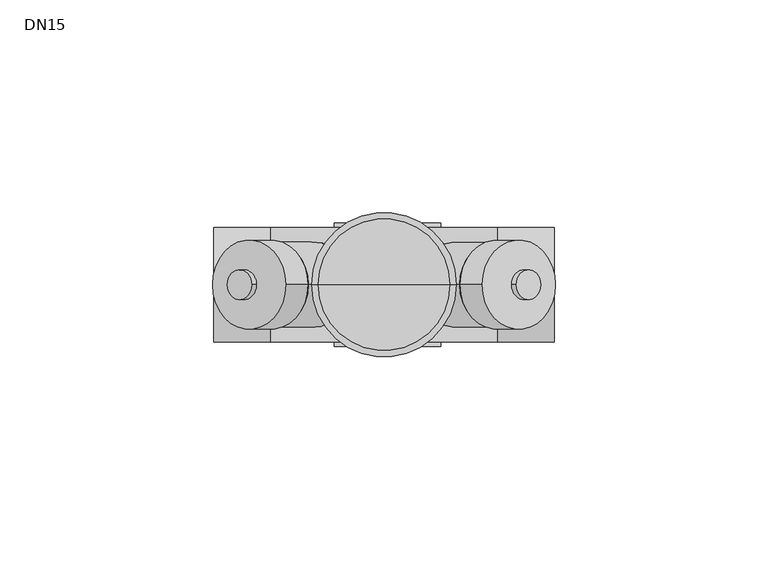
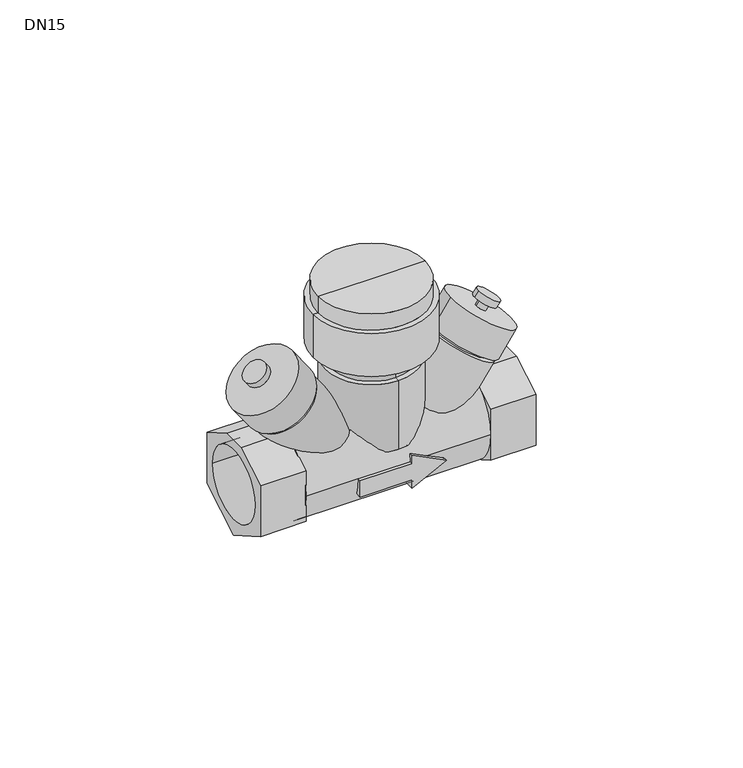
"""IFC4 building model written with IfcOpenShell, lengths in millimetres: valve geometry, 400_56_KOMF_HTZ : DN15."""

from ifc_helpers import new_model, si_unit, point, frame, origin, origin_2d, place, context, project, spatial, polyline, circle_curve, ellipse_curve, trimmed, segment, composite_curve, outline, extrude, source, transform, mapped, element, save
from ifc_brep_helpers import plane_surface, cylinder_surface, revolved_surface, advanced_brep


def dn15_3e07b9b7(model_context):
    return source(origin(), model_context, "Body", "SolidModel", [
        advanced_brep(
        [(34.1614142, 0.0, 15.2961177), (17.7784319, 0.0, 26.7676054), (19.4167774, 0.0, 25.6204236), (32.5230687, 0.0, 16.4432996), (22.8246716, 0.0, -0.8944285), (6.4416893, 0.0, 10.5770591), (33.0966531, 0.0, 17.2624631), (19.9903618, 0.0, 26.4395871), (40.3067448, 0.0, 23.2008828), (23.1046544, 0.0, 35.2459162), (30.4768006, 0.0, 30.0838838), (32.9345986, 0.0, 28.3629152), (35.1445527, 0.0, 15.8285084), (17.9424623, 0.0, 27.8735418), (34.0817629, 0.0, 30.0012356), (31.623965, 0.0, 31.7222043), (36.867019, 0.0, 30.4924917), (31.132981, 0.0, 34.5075083), (35.719883, 0.0, 28.8542116), (29.985845, 0.0, 32.8692283)],
        [
            (0, 1, circle_curve(frame((25.969923, 0.0, 21.0318616), z_axis=(0.5735764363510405, 0.0, 0.8191520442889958), x_axis=(-0.8191520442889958, 0.0, 0.5735764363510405)), 9.9999642)),
            (1, 0, circle_curve(frame((25.969923, 0.0, 21.0318616), z_axis=(0.5735764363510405, 0.0, 0.8191520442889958), x_axis=(-0.8191520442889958, 0.0, 0.5735764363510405)), 9.9999642)),
            (2, 3, circle_curve(frame((25.969923, 0.0, 21.0318616), z_axis=(-0.5735764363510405, 0.0, -0.8191520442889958), x_axis=(-0.8191520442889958, 0.0, 0.5735764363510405)), 7.9999137)),
            (3, 2, circle_curve(frame((25.969923, 0.0, 21.0318616), z_axis=(-0.5735764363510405, 0.0, -0.8191520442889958), x_axis=(-0.8191520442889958, 0.0, 0.5735764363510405)), 7.9999137)),
            (4, 5, circle_curve(frame((14.6331805, 0.0, 4.8413153), z_axis=(-0.5735764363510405, 0.0, -0.8191520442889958), x_axis=(-0.8191520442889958, 0.0, 0.5735764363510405)), 9.9999642)),
            (5, 4, circle_curve(frame((14.6331805, 0.0, 4.8413153), z_axis=(-0.5735764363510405, 0.0, -0.8191520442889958), x_axis=(-0.8191520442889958, 0.0, 0.5735764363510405)), 9.9999642)),
            (1, 5),
            (4, 0),
            (6, 7, circle_curve(frame((26.5435075, 0.0, 21.8510251), z_axis=(-0.5735764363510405, 0.0, -0.8191520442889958), x_axis=(-0.8191520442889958, 0.0, 0.5735764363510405)), 7.9999137)),
            (7, 2),
            (3, 6),
            (7, 6, circle_curve(frame((26.5435075, 0.0, 21.8510251), z_axis=(-0.5735764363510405, 0.0, -0.8191520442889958), x_axis=(-0.8191520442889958, 0.0, 0.5735764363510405)), 7.9999137)),
            (8, 9, circle_curve(frame((31.7056996, 0.0, 29.2233995), z_axis=(0.5735764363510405, 0.0, 0.8191520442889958), x_axis=(-0.8191520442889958, 0.0, 0.5735764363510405)), 10.4999374)),
            (9, 8, circle_curve(frame((31.7056996, 0.0, 29.2233995), z_axis=(0.5735764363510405, 0.0, 0.8191520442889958), x_axis=(-0.8191520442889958, 0.0, 0.5735764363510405)), 10.4999374)),
            (10, 11, circle_curve(frame((31.7056996, 0.0, 29.2233995), z_axis=(-0.5735764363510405, 0.0, -0.8191520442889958), x_axis=(-0.8191520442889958, 0.0, 0.5735764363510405)), 1.5002086)),
            (11, 10, circle_curve(frame((31.7056996, 0.0, 29.2233995), z_axis=(-0.5735764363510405, 0.0, -0.8191520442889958), x_axis=(-0.8191520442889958, 0.0, 0.5735764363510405)), 1.5002086)),
            (12, 13, circle_curve(frame((26.5435075, 0.0, 21.8510251), z_axis=(-0.5735764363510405, 0.0, -0.8191520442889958), x_axis=(-0.8191520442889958, 0.0, 0.5735764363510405)), 10.4999374)),
            (13, 12, circle_curve(frame((26.5435075, 0.0, 21.8510251), z_axis=(-0.5735764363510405, 0.0, -0.8191520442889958), x_axis=(-0.8191520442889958, 0.0, 0.5735764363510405)), 10.4999374)),
            (9, 13),
            (12, 8),
            (14, 15, circle_curve(frame((32.852864, 0.0, 30.8617199), z_axis=(-0.5735764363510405, 0.0, -0.8191520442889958), x_axis=(-0.8191520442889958, 0.0, 0.5735764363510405)), 1.5002086)),
            (15, 10),
            (11, 14),
            (15, 14, circle_curve(frame((32.852864, 0.0, 30.8617199), z_axis=(-0.5735764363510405, 0.0, -0.8191520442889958), x_axis=(-0.8191520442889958, 0.0, 0.5735764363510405)), 1.5002086)),
            (16, 17, circle_curve(frame((34.0, 0.0, 32.5), z_axis=(0.5735764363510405, 0.0, 0.8191520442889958), x_axis=(-0.8191520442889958, 0.0, 0.5735764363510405)), 3.4999839)),
            (17, 16, circle_curve(frame((34.0, 0.0, 32.5), z_axis=(0.5735764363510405, 0.0, 0.8191520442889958), x_axis=(-0.8191520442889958, 0.0, 0.5735764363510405)), 3.4999839)),
            (18, 19, circle_curve(frame((32.852864, 0.0, 30.8617199), z_axis=(-0.5735764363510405, 0.0, -0.8191520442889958), x_axis=(-0.8191520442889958, 0.0, 0.5735764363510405)), 3.4999839)),
            (19, 18, circle_curve(frame((32.852864, 0.0, 30.8617199), z_axis=(-0.5735764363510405, 0.0, -0.8191520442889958), x_axis=(-0.8191520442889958, 0.0, 0.5735764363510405)), 3.4999839)),
            (17, 19),
            (18, 16),
        ],
        [
            plane_surface(frame((17.7784319, 0.0, 26.7676054), z_axis=(0.5735764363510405, 0.0, 0.8191520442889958), x_axis=(0.0, 1.0, 0.0))),
            plane_surface(frame((6.4416893, 0.0, 10.5770591), z_axis=(-0.5735764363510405, 0.0, -0.8191520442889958), x_axis=(0.0, -1.0, 0.0))),
            cylinder_surface(frame((14.6331805, 0.0, 4.8413153), z_axis=(0.5735764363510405, 0.0, 0.8191520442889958), x_axis=(-0.8191520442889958, 0.0, 0.5735764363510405)), 9.9999642),
            cylinder_surface(frame((17.939734, 0.0, 9.5635631), z_axis=(0.5735764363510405, 0.0, 0.8191520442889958), x_axis=(-0.8191520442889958, 0.0, 0.5735764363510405)), 7.9999137),
            plane_surface(frame((23.1046544, 0.0, 35.2459162), z_axis=(0.5735764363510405, 0.0, 0.8191520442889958), x_axis=(0.0, 1.0, 0.0))),
            plane_surface(frame((17.9424623, 0.0, 27.8735418), z_axis=(-0.5735764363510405, 0.0, -0.8191520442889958), x_axis=(0.0, -1.0, 0.0))),
            cylinder_surface(frame((26.5435075, 0.0, 21.8510251), z_axis=(0.5735764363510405, 0.0, 0.8191520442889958), x_axis=(-0.8191520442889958, 0.0, 0.5735764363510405)), 10.4999374),
            cylinder_surface(frame((31.7056996, 0.0, 29.2233995), z_axis=(0.5735764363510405, 0.0, 0.8191520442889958), x_axis=(-0.8191520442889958, 0.0, 0.5735764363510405)), 1.5002086),
            plane_surface(frame((31.132981, 0.0, 34.5075083), z_axis=(0.5735764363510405, 0.0, 0.8191520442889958), x_axis=(0.0, 1.0, 0.0))),
            plane_surface(frame((29.985845, 0.0, 32.8692283), z_axis=(-0.5735764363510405, 0.0, -0.8191520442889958), x_axis=(0.0, -1.0, 0.0))),
            cylinder_surface(frame((32.852864, 0.0, 30.8617199), z_axis=(0.5735764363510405, 0.0, 0.8191520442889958), x_axis=(-0.8191520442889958, 0.0, 0.5735764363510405)), 3.4999839),
        ],
        [
            (0, [[1, 2], [3, 4]]),
            (1, [[5, 6]]),
            (2, [[7, -5, 8, -2]]),
            (2, [[-8, -6, -7, -1]]),
            (3, [[9, 10, -4, 11]]),
            (3, [[-3, -10, 12, -11]]),
            (4, [[13, 14], [15, 16]]),
            (5, [[17, 18], [-12, -9]]),
            (6, [[19, -17, 20, -14]]),
            (6, [[-20, -18, -19, -13]]),
            (7, [[21, 22, -16, 23]]),
            (7, [[-15, -22, 24, -23]]),
            (8, [[25, 26]]),
            (9, [[27, 28], [-24, -21]]),
            (10, [[29, -27, 30, -26]]),
            (10, [[-30, -28, -29, -25]]),
        ],
    ),
        advanced_brep(
        [(-34.1614142, 0.0, 15.2961177), (-17.7784319, 0.0, 26.7676054), (-19.4167774, 0.0, 25.6204236), (-32.5230687, 0.0, 16.4432996), (-22.8246716, 0.0, -0.8944285), (-6.4416893, 0.0, 10.5770591), (-33.0966531, 0.0, 17.2624631), (-19.9903618, 0.0, 26.4395871), (-40.3067448, 0.0, 23.2008828), (-23.1046544, 0.0, 35.2459162), (-30.4768006, 0.0, 30.0838838), (-32.9345986, 0.0, 28.3629152), (-35.1445527, 0.0, 15.8285084), (-17.9424623, 0.0, 27.8735418), (-34.0817629, 0.0, 30.0012356), (-31.623965, 0.0, 31.7222043), (-36.867019, 0.0, 30.4924917), (-31.132981, 0.0, 34.5075083), (-35.719883, 0.0, 28.8542116), (-29.985845, 0.0, 32.8692283)],
        [
            (0, 1, circle_curve(frame((-25.969923, 0.0, 21.0318616), z_axis=(-0.5735764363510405, 0.0, 0.8191520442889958), x_axis=(0.8191520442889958, 0.0, 0.5735764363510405)), 9.9999642)),
            (1, 0, circle_curve(frame((-25.969923, 0.0, 21.0318616), z_axis=(-0.5735764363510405, 0.0, 0.8191520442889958), x_axis=(0.8191520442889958, 0.0, 0.5735764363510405)), 9.9999642)),
            (2, 3, circle_curve(frame((-25.969923, 0.0, 21.0318616), z_axis=(0.5735764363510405, 0.0, -0.8191520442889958), x_axis=(0.8191520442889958, 0.0, 0.5735764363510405)), 7.9999137)),
            (3, 2, circle_curve(frame((-25.969923, 0.0, 21.0318616), z_axis=(0.5735764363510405, 0.0, -0.8191520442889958), x_axis=(0.8191520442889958, 0.0, 0.5735764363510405)), 7.9999137)),
            (4, 5, circle_curve(frame((-14.6331805, 0.0, 4.8413153), z_axis=(0.5735764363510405, 0.0, -0.8191520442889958), x_axis=(0.8191520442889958, 0.0, 0.5735764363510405)), 9.9999642)),
            (5, 4, circle_curve(frame((-14.6331805, 0.0, 4.8413153), z_axis=(0.5735764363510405, 0.0, -0.8191520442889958), x_axis=(0.8191520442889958, 0.0, 0.5735764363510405)), 9.9999642)),
            (0, 4),
            (5, 1),
            (6, 3),
            (2, 7),
            (7, 6, circle_curve(frame((-26.5435075, 0.0, 21.8510251), z_axis=(0.5735764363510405, 0.0, -0.8191520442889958), x_axis=(0.8191520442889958, 0.0, 0.5735764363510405)), 7.9999137)),
            (6, 7, circle_curve(frame((-26.5435075, 0.0, 21.8510251), z_axis=(0.5735764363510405, 0.0, -0.8191520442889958), x_axis=(0.8191520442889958, 0.0, 0.5735764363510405)), 7.9999137)),
            (8, 9, circle_curve(frame((-31.7056996, 0.0, 29.2233995), z_axis=(-0.5735764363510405, 0.0, 0.8191520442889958), x_axis=(0.8191520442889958, 0.0, 0.5735764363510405)), 10.4999374)),
            (9, 8, circle_curve(frame((-31.7056996, 0.0, 29.2233995), z_axis=(-0.5735764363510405, 0.0, 0.8191520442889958), x_axis=(0.8191520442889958, 0.0, 0.5735764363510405)), 10.4999374)),
            (10, 11, circle_curve(frame((-31.7056996, 0.0, 29.2233995), z_axis=(0.5735764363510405, 0.0, -0.8191520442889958), x_axis=(0.8191520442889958, 0.0, 0.5735764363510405)), 1.5002086)),
            (11, 10, circle_curve(frame((-31.7056996, 0.0, 29.2233995), z_axis=(0.5735764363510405, 0.0, -0.8191520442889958), x_axis=(0.8191520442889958, 0.0, 0.5735764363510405)), 1.5002086)),
            (12, 13, circle_curve(frame((-26.5435075, 0.0, 21.8510251), z_axis=(0.5735764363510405, 0.0, -0.8191520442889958), x_axis=(0.8191520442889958, 0.0, 0.5735764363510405)), 10.4999374)),
            (13, 12, circle_curve(frame((-26.5435075, 0.0, 21.8510251), z_axis=(0.5735764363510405, 0.0, -0.8191520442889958), x_axis=(0.8191520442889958, 0.0, 0.5735764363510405)), 10.4999374)),
            (8, 12),
            (13, 9),
            (14, 11),
            (10, 15),
            (15, 14, circle_curve(frame((-32.852864, 0.0, 30.8617199), z_axis=(0.5735764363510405, 0.0, -0.8191520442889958), x_axis=(0.8191520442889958, 0.0, 0.5735764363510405)), 1.5002086)),
            (14, 15, circle_curve(frame((-32.852864, 0.0, 30.8617199), z_axis=(0.5735764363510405, 0.0, -0.8191520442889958), x_axis=(0.8191520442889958, 0.0, 0.5735764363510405)), 1.5002086)),
            (16, 17, circle_curve(frame((-34.0, 0.0, 32.5), z_axis=(-0.5735764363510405, 0.0, 0.8191520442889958), x_axis=(0.8191520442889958, 0.0, 0.5735764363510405)), 3.4999839)),
            (17, 16, circle_curve(frame((-34.0, 0.0, 32.5), z_axis=(-0.5735764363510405, 0.0, 0.8191520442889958), x_axis=(0.8191520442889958, 0.0, 0.5735764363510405)), 3.4999839)),
            (18, 19, circle_curve(frame((-32.852864, 0.0, 30.8617199), z_axis=(0.5735764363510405, 0.0, -0.8191520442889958), x_axis=(0.8191520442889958, 0.0, 0.5735764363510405)), 3.4999839)),
            (19, 18, circle_curve(frame((-32.852864, 0.0, 30.8617199), z_axis=(0.5735764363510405, 0.0, -0.8191520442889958), x_axis=(0.8191520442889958, 0.0, 0.5735764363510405)), 3.4999839)),
            (16, 18),
            (19, 17),
        ],
        [
            plane_surface(frame((-17.7784319, 0.0, 26.7676054), z_axis=(-0.5735764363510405, 0.0, 0.8191520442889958), x_axis=(0.0, 1.0, 0.0))),
            plane_surface(frame((-6.4416893, 0.0, 10.5770591), z_axis=(0.5735764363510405, 0.0, -0.8191520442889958), x_axis=(0.0, -1.0, 0.0))),
            cylinder_surface(frame((-14.6331805, 0.0, 4.8413153), z_axis=(-0.5735764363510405, 0.0, 0.8191520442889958), x_axis=(0.8191520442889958, 0.0, 0.5735764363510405)), 9.9999642),
            cylinder_surface(frame((-17.939734, 0.0, 9.5635631), z_axis=(-0.5735764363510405, 0.0, 0.8191520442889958), x_axis=(0.8191520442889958, 0.0, 0.5735764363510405)), 7.9999137),
            plane_surface(frame((-23.1046544, 0.0, 35.2459162), z_axis=(-0.5735764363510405, 0.0, 0.8191520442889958), x_axis=(0.0, 1.0, 0.0))),
            plane_surface(frame((-17.9424623, 0.0, 27.8735418), z_axis=(0.5735764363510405, 0.0, -0.8191520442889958), x_axis=(0.0, -1.0, 0.0))),
            cylinder_surface(frame((-26.5435075, 0.0, 21.8510251), z_axis=(-0.5735764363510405, 0.0, 0.8191520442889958), x_axis=(0.8191520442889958, 0.0, 0.5735764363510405)), 10.4999374),
            cylinder_surface(frame((-31.7056996, 0.0, 29.2233995), z_axis=(-0.5735764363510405, 0.0, 0.8191520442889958), x_axis=(0.8191520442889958, 0.0, 0.5735764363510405)), 1.5002086),
            plane_surface(frame((-31.132981, 0.0, 34.5075083), z_axis=(-0.5735764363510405, 0.0, 0.8191520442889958), x_axis=(0.0, 1.0, 0.0))),
            plane_surface(frame((-29.985845, 0.0, 32.8692283), z_axis=(0.5735764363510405, 0.0, -0.8191520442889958), x_axis=(0.0, -1.0, 0.0))),
            cylinder_surface(frame((-32.852864, 0.0, 30.8617199), z_axis=(-0.5735764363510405, 0.0, 0.8191520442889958), x_axis=(0.8191520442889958, 0.0, 0.5735764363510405)), 3.4999839),
        ],
        [
            (0, [[1, 2], [3, 4]]),
            (1, [[5, 6]]),
            (2, [[-1, 7, -6, 8]]),
            (2, [[-2, -8, -5, -7]]),
            (3, [[9, -3, 10, 11]]),
            (3, [[-9, 12, -10, -4]]),
            (4, [[13, 14], [15, 16]]),
            (5, [[17, 18], [-11, -12]]),
            (6, [[-13, 19, -18, 20]]),
            (6, [[-14, -20, -17, -19]]),
            (7, [[21, -15, 22, 23]]),
            (7, [[-21, 24, -22, -16]]),
            (8, [[25, 26]]),
            (9, [[27, 28], [-23, -24]]),
            (10, [[-25, 29, -28, 30]]),
            (10, [[-26, -30, -27, -29]]),
        ],
    ),
        advanced_brep(
        [(26.8, -13.4999998, -1e-07), (26.8, 13.5000002, -1e-07), (-26.8, -13.4999998, -1e-07), (-26.8, 13.5000002, -1e-07), (8.3504735, -13.4999998, -1e-07), (13.3504733, -13.266499, -2.5), (3.3504733, -11.224972, -7.5), (3.3504733, -12.539936, -5.0), (-11.6495267, -12.539936, -5.0), (-11.6495267, -13.4999998, -1e-07), (-11.6495267, 13.5000002, -1e-07), (-11.6495267, 12.5399365, -5.0), (3.3504733, 12.5399365, -5.0), (3.3504733, 11.2249724, -7.5), (13.3504733, 13.2664994, -2.5), (8.3504735, 13.5000002, -1e-07), (3.3504733, 13.2664993, 2.5), (3.3504733, 13.5000002, -1e-07), (3.3504733, -13.4999998, 0.0), (3.3504733, -13.2664989, 2.5), (3.3504733, -14.5, 0.0), (-11.6495267, -14.5, 0.0), (-11.6495267, -14.5, -5.0), (3.3504733, -14.5, -5.0), (3.3504733, -14.5, -7.5), (13.3504733, -14.5, -2.5), (3.3504733, -14.5, 2.5), (3.3504733, 14.5, 0.0), (3.3504733, 14.5, 2.5), (13.3504733, 14.5, -2.5), (3.3504733, 14.5, -7.5), (3.3504733, 14.5, -5.0), (-11.6495267, 14.5, -5.0), (-11.6495267, 14.5, 0.0)],
        [
            (0, 1, circle_curve(frame((26.8, 2e-07, -1e-07), z_axis=(1.0, 0.0, 0.0), x_axis=(0.0, 1.0, 0.0)), 13.5)),
            (1, 0, circle_curve(frame((26.8, 2e-07, -1e-07), z_axis=(1.0, 0.0, 0.0), x_axis=(0.0, 1.0, 0.0)), 13.5)),
            (2, 3, circle_curve(frame((-26.8, 2e-07, -1e-07), z_axis=(-1.0, 0.0, 0.0), x_axis=(0.0, 1.0, 0.0)), 13.5)),
            (3, 2, circle_curve(frame((-26.8, 2e-07, -1e-07), z_axis=(-1.0, 0.0, 0.0), x_axis=(0.0, 1.0, 0.0)), 13.5)),
            (0, 4),
            (4, 5, ellipse_curve(frame((8.3504735, 2e-07, -1e-07), z_axis=(0.44721359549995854, 0.0, 0.8944271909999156), x_axis=(0.8944271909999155, 0.0, -0.4472135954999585)), 30.1869177, 13.5)),
            (5, 6, ellipse_curve(frame((18.3504731, 2e-07, -1e-07), z_axis=(0.4472135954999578, 0.0, -0.894427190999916), x_axis=(0.894427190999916, 0.0, 0.44721359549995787)), 30.1869177, 13.5)),
            (6, 7, circle_curve(frame((3.3504733, 2e-07, -1e-07), z_axis=(-1.0, 0.0, 0.0), x_axis=(0.0, 1.0, 0.0)), 13.5)),
            (7, 8),
            (8, 9, circle_curve(frame((-11.6495267, 2e-07, -1e-07), z_axis=(-1.0, 0.0, 0.0), x_axis=(0.0, 1.0, 0.0)), 13.5)),
            (9, 2),
            (3, 10),
            (10, 11, circle_curve(frame((-11.6495267, 2e-07, -1e-07), z_axis=(-1.0, 0.0, 0.0), x_axis=(0.0, 1.0, 0.0)), 13.5)),
            (11, 12),
            (12, 13, circle_curve(frame((3.3504733, 2e-07, -1e-07), z_axis=(-1.0, 0.0, 0.0), x_axis=(0.0, 1.0, 0.0)), 13.5)),
            (13, 14, ellipse_curve(frame((18.3504731, 2e-07, -1e-07), z_axis=(0.4472135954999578, 0.0, -0.894427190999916), x_axis=(0.894427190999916, 0.0, 0.44721359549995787)), 30.1869177, 13.5)),
            (14, 15, ellipse_curve(frame((8.3504735, 2e-07, -1e-07), z_axis=(0.44721359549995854, 0.0, 0.8944271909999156), x_axis=(0.8944271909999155, 0.0, -0.4472135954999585)), 30.1869177, 13.5)),
            (15, 1),
            (15, 16, ellipse_curve(frame((8.3504735, 2e-07, -1e-07), z_axis=(0.44721359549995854, 0.0, 0.8944271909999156), x_axis=(0.8944271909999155, 0.0, -0.4472135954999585)), 30.1869177, 13.5)),
            (16, 17, circle_curve(frame((3.3504733, 2e-07, -1e-07), z_axis=(-1.0, 0.0, 0.0), x_axis=(0.0, 1.0, 0.0)), 13.5)),
            (17, 10),
            (9, 18),
            (18, 19, circle_curve(frame((3.3504733, 2e-07, -1e-07), z_axis=(-1.0, 0.0, 0.0), x_axis=(0.0, 1.0, 0.0)), 13.5)),
            (19, 4, ellipse_curve(frame((8.3504735, 2e-07, -1e-07), z_axis=(0.44721359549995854, 0.0, 0.8944271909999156), x_axis=(0.8944271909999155, 0.0, -0.4472135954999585)), 30.1869177, 13.5)),
            (20, 21),
            (21, 22),
            (22, 23),
            (23, 24),
            (24, 25),
            (25, 26),
            (26, 20),
            (27, 28),
            (28, 29),
            (29, 30),
            (30, 31),
            (31, 32),
            (32, 33),
            (33, 27),
            (20, 18),
            (9, 21),
            (33, 10),
            (17, 27),
            (8, 22),
            (32, 11),
            (7, 23),
            (31, 12),
            (6, 24),
            (30, 13),
            (5, 25),
            (29, 14),
            (19, 26),
            (28, 16),
        ],
        [
            plane_surface(frame((26.8, 13.5000002, -1e-07), z_axis=(1.0, 0.0, 0.0), x_axis=(0.0, 0.0, 1.0))),
            plane_surface(frame((-26.8, 13.5000002, -1e-07), z_axis=(-1.0, 0.0, 0.0), x_axis=(0.0, 0.0, -1.0))),
            cylinder_surface(frame((-26.8, 2e-07, -1e-07), z_axis=(1.0, 0.0, 0.0), x_axis=(0.0, 1.0, 0.0)), 13.5),
            plane_surface(frame((-11.6495267, -14.5, 0.0), z_axis=(0.0, -1.0, 0.0), x_axis=(-1.0, 0.0, 0.0))),
            plane_surface(frame((-11.6495267, 14.5, 0.0), z_axis=(0.0, 1.0, 0.0), x_axis=(1.0, 0.0, 0.0))),
            plane_surface(frame((3.3504733, -14.5, 0.0), z_axis=(0.0, 0.0, 1.0), x_axis=(0.0, 1.0, 0.0))),
            plane_surface(frame((-11.6495267, -14.5, 0.0), z_axis=(-1.0, 0.0, 0.0), x_axis=(0.0, 1.0, 0.0))),
            plane_surface(frame((-11.6495267, -14.5, -5.0), z_axis=(0.0, 0.0, -1.0), x_axis=(0.0, 1.0, 0.0))),
            plane_surface(frame((3.3504733, -14.5, -5.0), z_axis=(-1.0, 0.0, 0.0), x_axis=(0.0, 1.0, 0.0))),
            plane_surface(frame((3.3504733, -14.5, -7.5), z_axis=(0.4472135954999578, 0.0, -0.894427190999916), x_axis=(0.0, 1.0, 0.0))),
            plane_surface(frame((13.3504733, -14.5, -2.5), z_axis=(0.44721359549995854, 0.0, 0.8944271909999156), x_axis=(0.0, 1.0, 0.0))),
            plane_surface(frame((3.3504733, -14.5, 2.5), z_axis=(-1.0, 0.0, 0.0), x_axis=(0.0, 1.0, 0.0))),
        ],
        [
            (0, [[1, 2]]),
            (1, [[3, 4]]),
            (2, [[-1, 5, 6, 7, 8, 9, 10, 11, -4, 12, 13, 14, 15, 16, 17, 18]]),
            (2, [[-2, -18, 19, 20, 21, -12, -3, -11, 22, 23, 24, -5]]),
            (3, [[25, 26, 27, 28, 29, 30, 31]]),
            (4, [[32, 33, 34, 35, 36, 37, 38]]),
            (5, [[-25, 39, -22, 40]]),
            (5, [[-38, 41, -21, 42]]),
            (6, [[-26, -40, -10, 43]]),
            (6, [[-37, 44, -13, -41]]),
            (7, [[-27, -43, -9, 45]]),
            (7, [[-36, 46, -14, -44]]),
            (8, [[-28, -45, -8, 47]]),
            (8, [[-35, 48, -15, -46]]),
            (9, [[-29, -47, -7, 49]]),
            (9, [[-34, 50, -16, -48]]),
            (10, [[-30, -49, -6, -24, 51]]),
            (10, [[-33, 52, -19, -17, -50]]),
            (11, [[-31, -51, -23, -39]]),
            (11, [[-32, -42, -20, -52]]),
        ],
    ),
        extrude(outline(polyline([(13.5, 7.7942282), (13.5, -7.7942286), (-4e-07, -15.5884575), (-13.5, -7.7942291), (-13.5, 7.7942286), (-3.6173141, 13.5), (3.6173133, 13.5), (13.5, 7.7942282)]), holes=[composite_curve([segment(trimmed(circle_curve(origin_2d(), 10.65), [point((-10.65, 0.0))], [point((10.65, 0.0))], True, "CARTESIAN"), True, "CONTINUOUS"), segment(trimmed(circle_curve(origin_2d(), 10.65), [point((10.65, 0.0))], [point((-10.65, 0.0))], True, "CARTESIAN"), True, "CONTINUOUS")], self_intersect=False)]), frame((26.8, 0.0, 0.0), z_axis=(1.0, 0.0, 0.0), x_axis=(0.0, 1.0, 0.0)), (0.0, 0.0, 1.0), 13.2),
        extrude(outline(polyline([(13.5, 7.7942282), (13.5, -7.7942286), (-4e-07, -15.5884575), (-13.5, -7.7942291), (-13.5, 7.7942286), (-3.6173141, 13.5), (3.6173133, 13.5), (13.5, 7.7942282)]), holes=[composite_curve([segment(trimmed(circle_curve(origin_2d(), 10.65), [point((-10.65, 0.0))], [point((10.65, 0.0))], True, "CARTESIAN"), True, "CONTINUOUS"), segment(trimmed(circle_curve(origin_2d(), 10.65), [point((10.65, 0.0))], [point((-10.65, 0.0))], True, "CARTESIAN"), True, "CONTINUOUS")], self_intersect=False)]), frame((-40.0, 0.0, 0.0), z_axis=(1.0, 0.0, 0.0), x_axis=(0.0, 1.0, 0.0)), (0.0, 0.0, 1.0), 13.2),
        advanced_brep(
        [(0.0, -13.5, 26.0), (0.0, 13.5, 26.0), (0.0, 13.5, 5.0000003), (0.0, -13.5, 5.0000003), (0.0, -12.0000003, 26.0), (0.0, 12.0000003, 26.0), (0.0, -12.0000003, 34.0), (0.0, 12.0000003, 34.0), (0.0, 0.0, 34.0), (0.0, -10.5000003, 2.0), (0.0, 10.5000003, 2.0), (0.0, 0.0, 2.0)],
        [
            (0, 1, circle_curve(frame((0.0, 0.0, 26.0), z_axis=(0.0, 0.0, -1.0), x_axis=(0.0, 1.0, 0.0)), 13.5)),
            (1, 2),
            (2, 3, circle_curve(frame((0.0, 0.0, 5.0000003), z_axis=(0.0, 0.0, 1.0), x_axis=(0.0, 1.0, 0.0)), 13.5)),
            (3, 0),
            (1, 0, circle_curve(frame((0.0, 0.0, 26.0), z_axis=(0.0, 0.0, -1.0), x_axis=(0.0, 1.0, 0.0)), 13.5)),
            (3, 2, circle_curve(frame((0.0, 0.0, 5.0000003), z_axis=(0.0, 0.0, 1.0), x_axis=(0.0, 1.0, 0.0)), 13.5)),
            (4, 5, circle_curve(frame((0.0, 0.0, 26.0), z_axis=(0.0, 0.0, -1.0), x_axis=(0.0, 1.0, 0.0)), 12.0000003)),
            (5, 1),
            (0, 4),
            (5, 4, circle_curve(frame((0.0, 0.0, 26.0), z_axis=(0.0, 0.0, -1.0), x_axis=(0.0, 1.0, 0.0)), 12.0000003)),
            (6, 7, circle_curve(frame((0.0, 0.0, 34.0), z_axis=(0.0, 0.0, -1.0), x_axis=(0.0, 1.0, 0.0)), 12.0000003)),
            (7, 5),
            (4, 6),
            (7, 6, circle_curve(frame((0.0, 0.0, 34.0), z_axis=(0.0, 0.0, -1.0), x_axis=(0.0, 1.0, 0.0)), 12.0000003)),
            (8, 7),
            (6, 8),
            (9, 10, circle_curve(frame((0.0, 0.0, 2.0), z_axis=(0.0, 0.0, -1.0), x_axis=(0.0, 1.0, 0.0)), 10.5000003)),
            (10, 11),
            (11, 9),
            (10, 9, circle_curve(frame((0.0, 0.0, 2.0), z_axis=(0.0, 0.0, -1.0), x_axis=(0.0, 1.0, 0.0)), 10.5000003)),
            (2, 10),
            (9, 3),
        ],
        [
            cylinder_surface(frame((0.0, 0.0, 1440.3704342), z_axis=(0.0, 0.0, 1.0), x_axis=(0.0, 1.0, 0.0)), 13.5),
            plane_surface(frame((0.0, 0.0, 26.0), z_axis=(0.0, 0.0, 1.0), x_axis=(0.0, 1.0, 0.0))),
            cylinder_surface(frame((0.0, 0.0, 1440.3704342), z_axis=(0.0, 0.0, 1.0), x_axis=(0.0, 1.0, 0.0)), 12.0000003),
            plane_surface(frame((0.0, 0.0, 34.0), z_axis=(0.0, 0.0, 1.0), x_axis=(0.0, 1.0, 0.0))),
            plane_surface(frame((0.0, 0.0, 2.0), z_axis=(0.0, 0.0, -1.0), x_axis=(0.0, 1.0, 0.0))),
            revolved_surface(polyline([(0.0, 10.5000003, 2.0), (0.0, 13.5, 5.0000003)]), (0.0, 0.0, 1440.3704342), (0.0, 0.0, 1.0)),
        ],
        [
            (0, [[1, 2, 3, 4]]),
            (0, [[5, -4, 6, -2]]),
            (1, [[7, 8, -1, 9]]),
            (1, [[10, -9, -5, -8]]),
            (2, [[11, 12, -7, 13]]),
            (2, [[14, -13, -10, -12]]),
            (3, [[15, -11, 16]]),
            (3, [[-16, -14, -15]]),
            (4, [[17, 18, 19]]),
            (4, [[20, -19, -18]]),
            (5, [[-3, 21, -17, 22]]),
            (5, [[-6, -22, -20, -21]]),
        ],
    ),
        advanced_brep(
        [(15.5000005, 0.0, 49.1250011), (-15.5000005, 0.0, 49.1250011), (0.0, 0.0, 49.1250011), (15.5000005, 0.0, 44.1400994), (-15.5000005, 0.0, 44.1400994), (17.0, 0.0, 44.1400994), (-17.0, 0.0, 44.1400994), (17.0, 0.0, 31.0), (-17.0, 0.0, 31.0), (0.0, 0.0, 31.0)],
        [
            (0, 1, circle_curve(frame((0.0, 0.0, 49.1250011), z_axis=(0.0, 0.0, 1.0), x_axis=(-1.0, 0.0, 0.0)), 15.5000005)),
            (1, 2),
            (2, 0),
            (1, 0, circle_curve(frame((0.0, 0.0, 49.1250011), z_axis=(0.0, 0.0, 1.0), x_axis=(-1.0, 0.0, 0.0)), 15.5000005)),
            (3, 4, circle_curve(frame((0.0, 0.0, 44.1400994), z_axis=(0.0, 0.0, 1.0), x_axis=(-1.0, 0.0, 0.0)), 15.5000005)),
            (4, 1),
            (0, 3),
            (4, 3, circle_curve(frame((0.0, 0.0, 44.1400994), z_axis=(0.0, 0.0, 1.0), x_axis=(-1.0, 0.0, 0.0)), 15.5000005)),
            (5, 6, circle_curve(frame((0.0, 0.0, 44.1400994), z_axis=(0.0, 0.0, 1.0), x_axis=(-1.0, 0.0, 0.0)), 17.0)),
            (6, 4),
            (3, 5),
            (6, 5, circle_curve(frame((0.0, 0.0, 44.1400994), z_axis=(0.0, 0.0, 1.0), x_axis=(-1.0, 0.0, 0.0)), 17.0)),
            (7, 8, circle_curve(frame((0.0, 0.0, 31.0), z_axis=(0.0, 0.0, 1.0), x_axis=(-1.0, 0.0, 0.0)), 17.0)),
            (8, 6),
            (5, 7),
            (8, 7, circle_curve(frame((0.0, 0.0, 31.0), z_axis=(0.0, 0.0, 1.0), x_axis=(-1.0, 0.0, 0.0)), 17.0)),
            (9, 8),
            (7, 9),
        ],
        [
            plane_surface(frame((0.0, 0.0, 49.1250011), z_axis=(0.0, 0.0, 1.0), x_axis=(-1.0, 0.0, 0.0))),
            cylinder_surface(frame((0.0, 0.0, 29.125), z_axis=(0.0, 0.0, -1.0), x_axis=(-1.0, 0.0, 0.0)), 15.5000005),
            plane_surface(frame((0.0, 0.0, 44.1400994), z_axis=(0.0, 0.0, 1.0), x_axis=(-1.0, 0.0, 0.0))),
            cylinder_surface(frame((0.0, 0.0, 29.125), z_axis=(0.0, 0.0, -1.0), x_axis=(-1.0, 0.0, 0.0)), 17.0),
            plane_surface(frame((0.0, 0.0, 31.0), z_axis=(0.0, 0.0, -1.0), x_axis=(-1.0, 0.0, 0.0))),
        ],
        [
            (0, [[1, 2, 3]]),
            (0, [[4, -3, -2]]),
            (1, [[5, 6, -1, 7]]),
            (1, [[8, -7, -4, -6]]),
            (2, [[9, 10, -5, 11]]),
            (2, [[12, -11, -8, -10]]),
            (3, [[13, 14, -9, 15]]),
            (3, [[16, -15, -12, -14]]),
            (4, [[17, -13, 18]]),
            (4, [[-18, -16, -17]]),
        ],
    ),
    ])


if __name__ == "__main__":
    model = new_model("IFC4")
    model_context = context("Model", 3, world=origin())
    ifc_project = project(units=[si_unit("LENGTHUNIT", "METRE", prefix="MILLI")], contexts=[model_context])
    site = spatial("IfcSite", under=ifc_project)
    building = spatial("IfcBuilding", under=site)
    placement = place(None, origin())
    dn15_shape = dn15_3e07b9b7(model_context)
    element("IfcValve", 1, ObjectType="400_56_KOMF_HTZ : DN15", at=placement, inside=building, context=model_context, shape_type="MappedRepresentation", body=[
        mapped(dn15_shape, transform((0.0, 0.0, 0.0), x_axis=(1.0, 0.0, 0.0), y_axis=(0.0, 1.0, 0.0), z_axis=(0.0, 0.0, 1.0))),
    ])
    save(model, "model.ifc")
